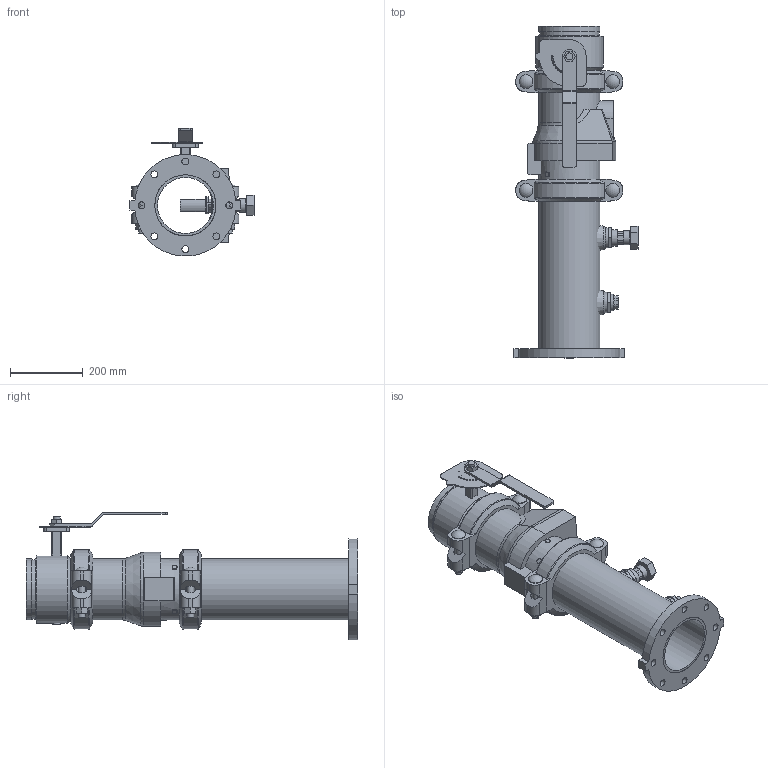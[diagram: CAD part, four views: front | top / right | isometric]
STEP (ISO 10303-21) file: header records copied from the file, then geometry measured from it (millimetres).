
FILE_DESCRIPTION(/* description */ ('VIC DVI PUMP DROP VERT S/380 (OGSxFLG) (S/924-1.25)','CAx-IF Rec.Pracs.---Representation and Presentation of Product Manufacturing Information (PMI)---4.0---2014-10-13'),/* implementation_level */ '2;1');
FILE_NAME(/* name */ 'C:\Users\Public\Documents\Victaulic.Temp\A765\Victaulic_IPS_Vertical DVI_CL 150_Series 380 (OGSxFLG)_924 (1.25)_06.0x06.0 (150x150).stp',/* time_stamp */ '2022-07-25T11:13:00+02:00',/* author */ ('Vjadhav'),/* organization */ ('Victaulic'),/* preprocessor_version */ 'ST-DEVELOPER v18',/* originating_system */ 'Autodesk Inventor 2020',/* authorisation */ '');
FILE_SCHEMA (('AP242_MANAGED_MODEL_BASED_3D_ENGINEERING_MIM_LF { 1 0 10303 442 1 1 4 }'));
Length unit declared in the file: inch
Products named in the file (8): 380_924 (1.25)-06.0x06.0; 741-06.0; Pipe-06.0x06.0; 177N-06.0; 761-06.0; 779-06.0; 923-04.0x0.75; 924-04.0x01.25
Assembly tree (8 placements, depth 2):
  380_924 (1.25)-06.0x06.0
    741-06.0
    Pipe-06.0x06.0
    177N-06.0  x2
    761-06.0
    779-06.0
    923-04.0x0.75
    924-04.0x01.25
Bounding box: 341.19 x 912.88 x 352.02 mm (x, y, z)
Volume: 9720053.9 mm3; surface area: 1613069.1 mm2
Topology: 8 solids, 10 shells, 498 faces, 1286 edges, 861 vertices
Faces by surface type: plane 294, cylinder 170, cone 14, torus 14, sphere 4, bspline 2
Full cylindrical faces by diameter (mm): 4.826 x10, 8.636 x4, 13.716 x4, 19.05 x14, 21.336 x1, 22.86 x1, 26.67 x2, 37.694 x4, 38.608 x1, 42.164 x1, 45.974 x4, 48.514 x1, 55.118 x1, 55.626 x2, 154.051 x3, 155.575 x2, 163.957 x6, 168.275 x16, 185.42 x1
Entity records: 13869 total; most frequent: CARTESIAN_POINT 2763, DIRECTION 2280, ORIENTED_EDGE 2090, EDGE_CURVE 1045, AXIS2_PLACEMENT_3D 856, VERTEX_POINT 701, LINE 568, VECTOR 568
